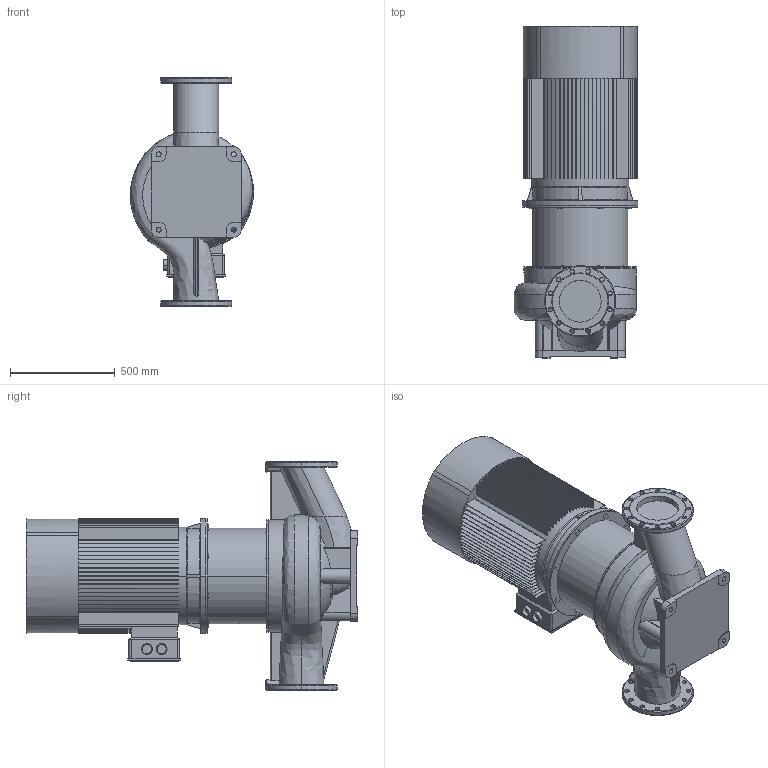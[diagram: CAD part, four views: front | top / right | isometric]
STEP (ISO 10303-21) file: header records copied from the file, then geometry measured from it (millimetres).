
FILE_DESCRIPTION (( 'STEP AP203' ), '1' );
FILE_NAME ('TD200-53_4.STEP', '2022-05-02T17:38:48', ( '' ), ( '' ), 'SwSTEP 2.0', 'SolidWorks 2019', '' );
FILE_SCHEMA (( 'CONFIG_CONTROL_DESIGN' ));
Length unit declared in the file: millimetre
Products named in the file (4): TD200-53_4; ED_B5_YE2-280S-4 (75); Pr_ch 200_TD200-53_4; Fon_200_TD200-53_4
Assembly tree (3 placements, depth 2):
  TD200-53_4
    Pr_ch 200_TD200-53_4
    Fon_200_TD200-53_4
    ED_B5_YE2-280S-4 (75)
Bounding box: 590.35 x 1587 x 1100 mm (x, y, z)
Volume: 286000969.2 mm3; surface area: 8428612.2 mm2
Topology: 5 solids, 7 shells, 816 faces, 2272 edges, 1508 vertices
Faces by surface type: plane 555, cylinder 189, torus 33, bspline 22, cone 17
Entity records: 35400 total; most frequent: CARTESIAN_POINT 13549, ORIENTED_EDGE 4544, DIRECTION 4451, EDGE_CURVE 2272, AXIS2_PLACEMENT_3D 1531, VERTEX_POINT 1508, VECTOR 1389, LINE 1389
